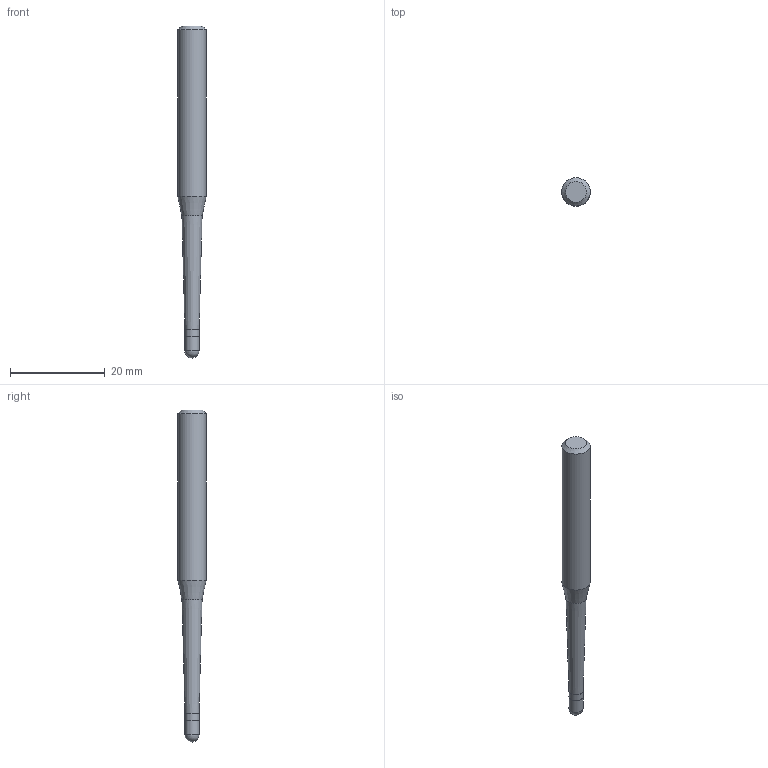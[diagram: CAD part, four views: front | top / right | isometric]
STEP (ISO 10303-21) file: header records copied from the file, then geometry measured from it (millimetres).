
FILE_DESCRIPTION((''),'2;1');
FILE_NAME('C:\Users\nsx150\AppData\Local\Temp\Mastercam 2021\E0ENTZRV18\TEMP.step','2021-09-02T09:57:24',(''),(''),'STEP Write','Mastercam 2021 ... CNC Software, Inc.','');
FILE_SCHEMA(('AUTOMOTIVE_DESIGN'));
Length unit declared in the file: millimetre
Products named in the file (1): None
Bounding box: 6 x 6 x 70 mm (x, y, z)
Volume: 1383.5 mm3; surface area: 1106.4 mm2
Topology: 2 solids, 2 shells, 10 faces, 16 edges, 9 vertices
Faces by surface type: plane 3, cylinder 3, cone 3, sphere 1
Full cylindrical faces by diameter (mm): 2.98 x1, 3 x1, 6 x1
Entity records: 232 total; most frequent: DIRECTION 40, CARTESIAN_POINT 28, AXIS2_PLACEMENT_3D 20, ORIENTED_EDGE 16, EDGE_LOOP 16, STYLED_ITEM 13, ADVANCED_FACE 10, FACE_BOUND 9
